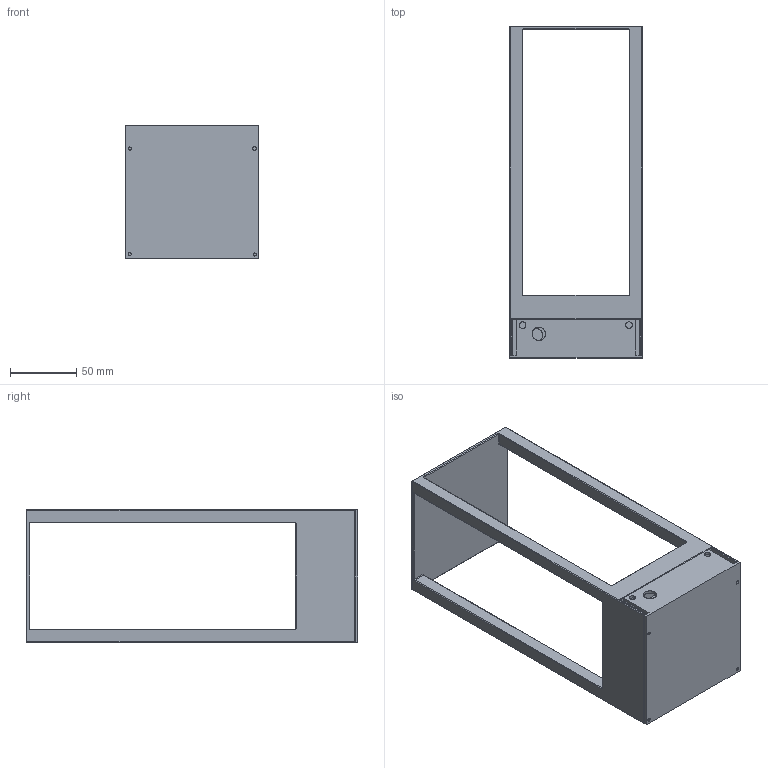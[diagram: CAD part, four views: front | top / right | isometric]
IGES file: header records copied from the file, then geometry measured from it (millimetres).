
Start section: SolidWorks IGES file using analytic representation for surfaces
Global section: file name: F:\GABRYSIA\MODELE 3D\STRUCTURE-LED-8146-WWW\STRUCTURE-LED-8146.IGS; native system: SolidWorks 2017; preprocessor: SolidWorks 2017; author: Togambi; date: 201202.092130; units: millimetre
Bounding box: 100 x 249.7 x 100 mm (x, y, z)
Surface area: 145683.3 mm2 (no closed solid volume)
Topology: 0 solids, 0 shells, 180 faces, 1630 edges, 1622 vertices
Faces by surface type: bspline 90, revolution 90
